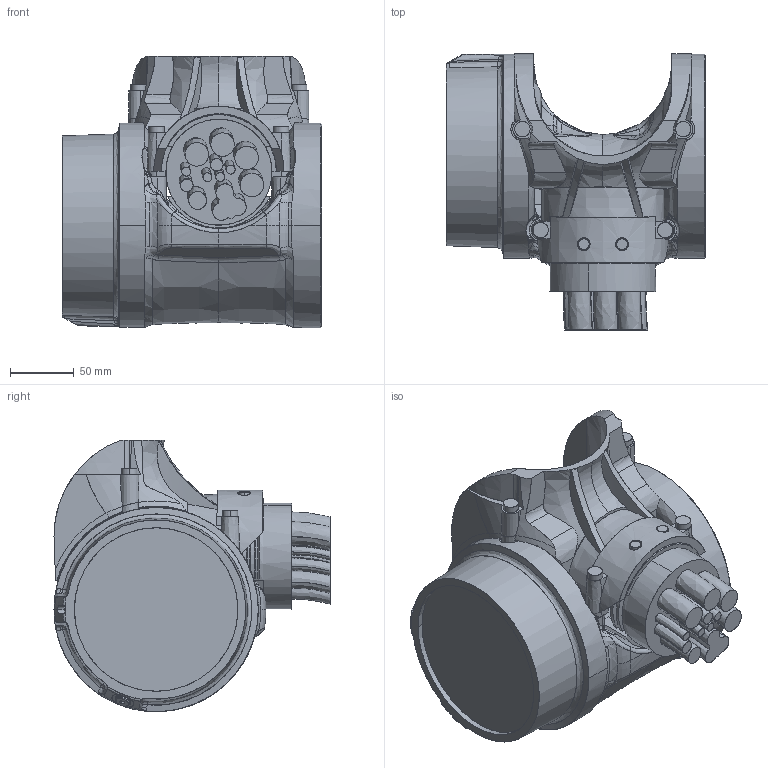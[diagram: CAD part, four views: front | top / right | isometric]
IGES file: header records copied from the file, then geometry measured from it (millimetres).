
Start section: SolidWorks IGES file using analytic representation for surfaces
Global section: file name: N:\DM\Robotics\SEROP_PROJ\Product Development\DevelopmentProjects\Manipulator_Modularity\04. Product Design\06. CAD\Amanda\6730S Simulation models\\IRB6730S-LID-MH_130kg-400_OC_01_IGES_J\IRB6730S-LID_130kg-400_OC_01_LINK06_CABLE.igs; native system: SolidWorks 2024; preprocessor: SolidWorks 2024; author: SEJOHLUN; date: 251219.141949; units: millimetre
Bounding box: 203.3 x 216.17 x 212.5 mm (x, y, z)
Surface area: 286261.8 mm2 (no closed solid volume)
Topology: 0 solids, 0 shells, 719 faces, 10748 edges, 10723 vertices
Faces by surface type: bspline 455, revolution 264
